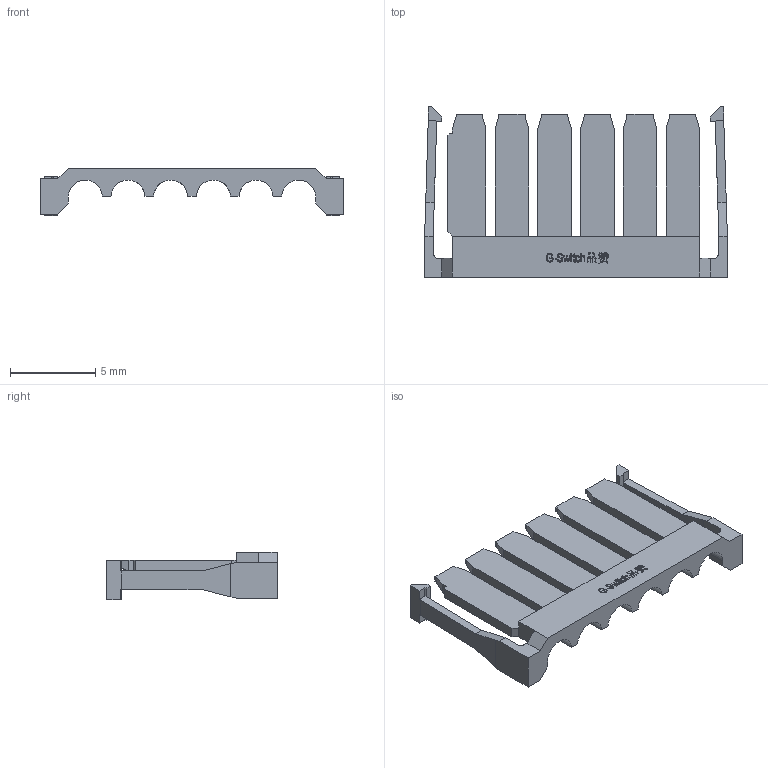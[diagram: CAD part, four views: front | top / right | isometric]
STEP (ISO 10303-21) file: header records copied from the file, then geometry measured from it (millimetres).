
FILE_DESCRIPTION (( 'STEP AP203' ), '1' );
FILE_NAME ('GT-A2513CM-106B01.STEP', '2026-06-18T08:36:03', ( '' ), ( '' ), 'SwSTEP 2.0', 'SolidWorks 2020', '' );
FILE_SCHEMA (( 'CONFIG_CONTROL_DESIGN' ));
Length unit declared in the file: millimetre
Products named in the file (1): GT-A2513CM-106B01
Bounding box: 17.7 x 9.98 x 2.8 mm (x, y, z)
Volume: 89.9 mm3; surface area: 446.9 mm2
Topology: 1 solids, 1 shells, 405 faces, 1146 edges, 763 vertices
Faces by surface type: plane 326, bspline 71, cylinder 8
Entity records: 16463 total; most frequent: CARTESIAN_POINT 6358, ORIENTED_EDGE 2292, DIRECTION 1690, EDGE_CURVE 1146, VECTOR 964, LINE 964, VERTEX_POINT 763, EDGE_LOOP 425
